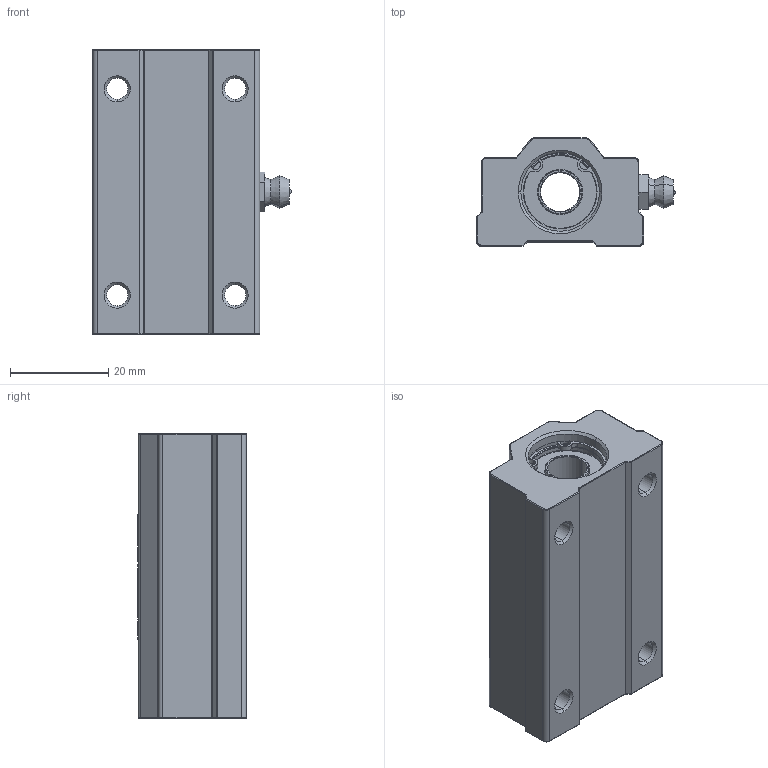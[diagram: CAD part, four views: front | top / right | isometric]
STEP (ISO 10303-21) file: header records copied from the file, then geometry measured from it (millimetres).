
FILE_DESCRIPTION (( 'STEP AP214' ), '1' );
FILE_NAME ('SC8LUU.STEP', '2020-09-23T08:19:57', ( '' ), ( '' ), 'SwSTEP 2.0', 'SolidWorks 2018', '' );
FILE_SCHEMA (( 'AUTOMOTIVE_DESIGN' ));
Length unit declared in the file: millimetre
Products named in the file (5): SC8LUU-04_5å4,5; SC8LUU-03; SC8LUU-02; SC8LUU-01; SC8LUU
Assembly tree (5 placements, depth 2):
  SC8LUU
    SC8LUU-01
    SC8LUU-02
    SC8LUU-03  x2
    SC8LUU-04_5å4,5
Bounding box: 40.45 x 22.1 x 58 mm (x, y, z)
Volume: 31687.7 mm3; surface area: 16110.9 mm2
Topology: 6 solids, 6 shells, 405 faces, 984 edges, 610 vertices
Faces by surface type: plane 161, cylinder 114, torus 48, bspline 38, cone 34, sphere 10
Entity records: 15190 total; most frequent: CARTESIAN_POINT 4234, DIRECTION 1874, ORIENTED_EDGE 1856, EDGE_CURVE 928, AXIS2_PLACEMENT_3D 664, VERTEX_POINT 577, LINE 546, VECTOR 546
